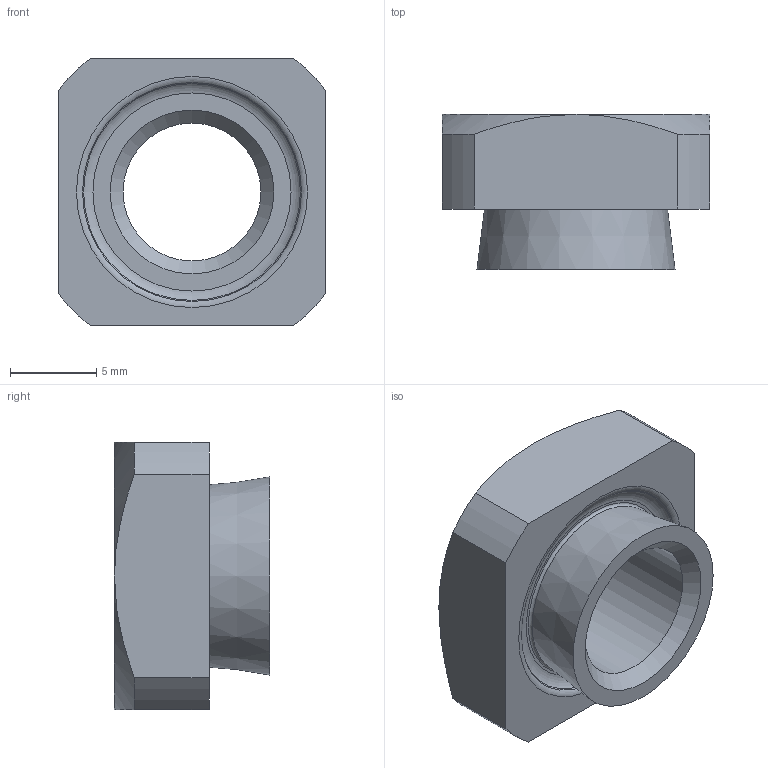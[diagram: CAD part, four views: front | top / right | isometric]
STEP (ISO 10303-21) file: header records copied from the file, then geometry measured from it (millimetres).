
FILE_DESCRIPTION(/* description */ (''),/* implementation_level */ '2;1');
FILE_NAME(/* name */ 'D:\Sukhmani\Fastit\HN Nut\HN 8-4.0.stp',/* time_stamp */ '2024-03-14T12:22:57+06:00',/* author */ ('edc.sukhmani'),/* organization */ (''),/* preprocessor_version */ 'ST-DEVELOPER v18.1',/* originating_system */ 'Autodesk Inventor 2022',/* authorisation */ '');
FILE_SCHEMA (('AUTOMOTIVE_DESIGN { 1 0 10303 214 3 1 1 }'));
Length unit declared in the file: millimetre
Products named in the file (1): HN 8-4.0
Bounding box: 15.52 x 9 x 15.52 mm (x, y, z)
Volume: 1116 mm3; surface area: 1028.7 mm2
Topology: 1 solids, 1 shells, 25 faces, 58 edges, 37 vertices
Faces by surface type: cone 8, plane 8, cylinder 6, torus 3
Full cylindrical faces by diameter (mm): 8 x1, 9.5 x1
Entity records: 763 total; most frequent: CARTESIAN_POINT 137, DIRECTION 134, ORIENTED_EDGE 116, EDGE_CURVE 58, AXIS2_PLACEMENT_3D 58, VERTEX_POINT 37, CIRCLE 32, EDGE_LOOP 29
